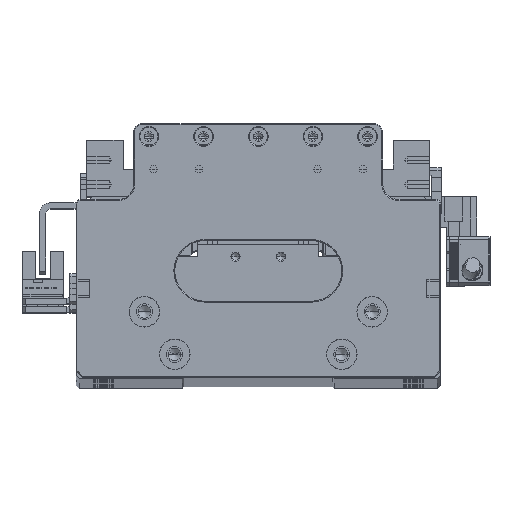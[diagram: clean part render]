
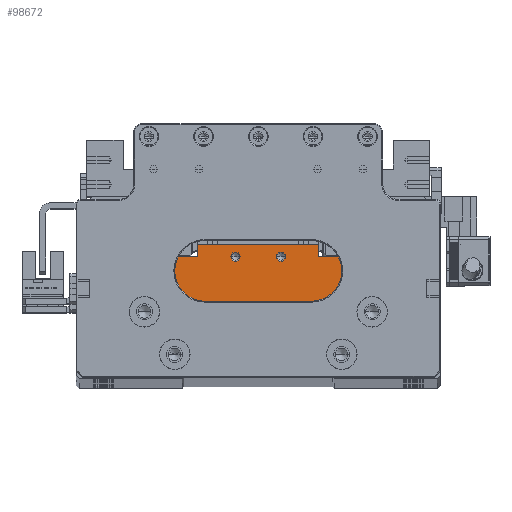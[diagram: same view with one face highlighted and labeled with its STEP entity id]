
A CAD part, top view. The second image highlights one B-rep face of the part: STEP entity #98672.
In plain terms, the highlighted planar face has unit normal (0, 0, 1).
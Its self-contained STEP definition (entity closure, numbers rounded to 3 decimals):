
#137 = CIRCLE ( 'NONE', #19736, 1.525 ) ;
#1802 = ORIENTED_EDGE ( 'NONE', *, *, #116679, .F. ) ;
#2144 = CARTESIAN_POINT ( 'NONE',  ( 29.9, 25.7, 83.854 ) ) ;
#3213 = CARTESIAN_POINT ( 'NONE',  ( -29.9, 18.2, 83.854 ) ) ;
#3521 = EDGE_LOOP ( 'NONE', ( #27339, #49898 ) ) ;
#4891 = VERTEX_POINT ( 'NONE', #2144 ) ;
#4907 = DIRECTION ( 'NONE',  ( 0., -1., 0. ) ) ;
#6068 = VERTEX_POINT ( 'NONE', #71250 ) ;
#7444 = VERTEX_POINT ( 'NONE', #24643 ) ;
#10605 = VECTOR ( 'NONE', #4907, 1000. ) ;
#13296 = VECTOR ( 'NONE', #39005, 1000. ) ;
#19329 = LINE ( 'NONE', #95930, #94424 ) ;
#19736 = AXIS2_PLACEMENT_3D ( 'NONE', #80781, #22090, #90648 ) ;
#19939 = ORIENTED_EDGE ( 'NONE', *, *, #48130, .F. ) ;
#22090 = DIRECTION ( 'NONE',  ( 0., 0., 1. ) ) ;
#22653 = DIRECTION ( 'NONE',  ( 1., 0., 0. ) ) ;
#23496 = CIRCLE ( 'NONE', #59770, 1.525 ) ;
#24643 = CARTESIAN_POINT ( 'NONE',  ( -20., 25.7, 83.854 ) ) ;
#25061 = VERTEX_POINT ( 'NONE', #27291 ) ;
#26225 = CARTESIAN_POINT ( 'NONE',  ( -7.5, 25.8, 83.854 ) ) ;
#27291 = CARTESIAN_POINT ( 'NONE',  ( 20., 25.7, 83.854 ) ) ;
#27339 = ORIENTED_EDGE ( 'NONE', *, *, #77988, .F. ) ;
#27427 = CIRCLE ( 'NONE', #104226, 1.525 ) ;
#28948 = CARTESIAN_POINT ( 'NONE',  ( -7.5, 25.8, 83.854 ) ) ;
#29570 = EDGE_CURVE ( 'NONE', #4891, #106467, #42796, .T. ) ;
#29706 = EDGE_CURVE ( 'NONE', #97869, #88458, #27427, .T. ) ;
#29922 = EDGE_LOOP ( 'NONE', ( #117406, #93422 ) ) ;
#33659 = DIRECTION ( 'NONE',  ( 0., 1., 0. ) ) ;
#33711 = PLANE ( 'NONE',  #125155 ) ;
#33817 = DIRECTION ( 'NONE',  ( 0., 0., 1. ) ) ;
#34061 = DIRECTION ( 'NONE',  ( 0., -1., 0. ) ) ;
#36074 = DIRECTION ( 'NONE',  ( 1., 0., 0. ) ) ;
#36429 = ORIENTED_EDGE ( 'NONE', *, *, #29570, .F. ) ;
#37330 = FACE_BOUND ( 'NONE', #29922, .T. ) ;
#38775 = DIRECTION ( 'NONE',  ( 1., 0., 0. ) ) ;
#39005 = DIRECTION ( 'NONE',  ( 1., 0., 0. ) ) ;
#39417 = LINE ( 'NONE', #97707, #13296 ) ;
#41117 = ORIENTED_EDGE ( 'NONE', *, *, #45506, .F. ) ;
#42796 = LINE ( 'NONE', #83230, #10605 ) ;
#43191 = EDGE_CURVE ( 'NONE', #65549, #106467, #39417, .T. ) ;
#43545 = DIRECTION ( 'NONE',  ( -1., 0., 0. ) ) ;
#43923 = CARTESIAN_POINT ( 'NONE',  ( 20., 18.2, 83.854 ) ) ;
#44970 = CIRCLE ( 'NONE', #89918, 1.525 ) ;
#45506 = EDGE_CURVE ( 'NONE', #65549, #6068, #121905, .T. ) ;
#48130 = EDGE_CURVE ( 'NONE', #56664, #65580, #62462, .T. ) ;
#48506 = DIRECTION ( 'NONE',  ( 1., 0., 0. ) ) ;
#49379 = CARTESIAN_POINT ( 'NONE',  ( -9.025, 25.8, 83.854 ) ) ;
#49898 = ORIENTED_EDGE ( 'NONE', *, *, #81569, .F. ) ;
#51437 = LINE ( 'NONE', #71479, #126532 ) ;
#56305 = VECTOR ( 'NONE', #48506, 1000. ) ;
#56664 = VERTEX_POINT ( 'NONE', #118696 ) ;
#59770 = AXIS2_PLACEMENT_3D ( 'NONE', #92485, #33817, #102345 ) ;
#62462 = LINE ( 'NONE', #117029, #56305 ) ;
#62873 = CARTESIAN_POINT ( 'NONE',  ( -7.5, 18.2, 83.854 ) ) ;
#64263 = EDGE_CURVE ( 'NONE', #25061, #4891, #19329, .T. ) ;
#64524 = EDGE_LOOP ( 'NONE', ( #1802, #41117, #120248, #36429, #120595, #123387, #19939, #68574 ) ) ;
#64656 = VECTOR ( 'NONE', #33659, 1000. ) ;
#65549 = VERTEX_POINT ( 'NONE', #71602 ) ;
#65580 = VERTEX_POINT ( 'NONE', #117583 ) ;
#68574 = ORIENTED_EDGE ( 'NONE', *, *, #89217, .F. ) ;
#69812 = VECTOR ( 'NONE', #71698, 1000. ) ;
#70795 = LINE ( 'NONE', #102172, #64656 ) ;
#71250 = CARTESIAN_POINT ( 'NONE',  ( -29.9, 25.7, 83.854 ) ) ;
#71479 = CARTESIAN_POINT ( 'NONE',  ( -7.5, 25.7, 83.854 ) ) ;
#71602 = CARTESIAN_POINT ( 'NONE',  ( -29.9, 6.5, 83.854 ) ) ;
#71698 = DIRECTION ( 'NONE',  ( 0., 1., 0. ) ) ;
#77988 = EDGE_CURVE ( 'NONE', #111848, #94336, #23496, .T. ) ;
#80781 = CARTESIAN_POINT ( 'NONE',  ( 7.5, 25.8, 83.854 ) ) ;
#81569 = EDGE_CURVE ( 'NONE', #94336, #111848, #137, .T. ) ;
#83230 = CARTESIAN_POINT ( 'NONE',  ( 29.9, 18.2, 83.854 ) ) ;
#83760 = CARTESIAN_POINT ( 'NONE',  ( 29.9, 6.5, 83.854 ) ) ;
#84565 = VECTOR ( 'NONE', #34061, 1000. ) ;
#86077 = DIRECTION ( 'NONE',  ( 1., 0., 0. ) ) ;
#88458 = VERTEX_POINT ( 'NONE', #100639 ) ;
#89217 = EDGE_CURVE ( 'NONE', #7444, #56664, #70795, .T. ) ;
#89257 = EDGE_CURVE ( 'NONE', #65580, #25061, #110602, .T. ) ;
#89918 = AXIS2_PLACEMENT_3D ( 'NONE', #28948, #97487, #38775 ) ;
#90222 = CARTESIAN_POINT ( 'NONE',  ( 9.025, 25.8, 83.854 ) ) ;
#90648 = DIRECTION ( 'NONE',  ( 1., 0., 0. ) ) ;
#92485 = CARTESIAN_POINT ( 'NONE',  ( 7.5, 25.8, 83.854 ) ) ;
#93422 = ORIENTED_EDGE ( 'NONE', *, *, #29706, .F. ) ;
#94336 = VERTEX_POINT ( 'NONE', #117574 ) ;
#94424 = VECTOR ( 'NONE', #86077, 1000. ) ;
#94775 = DIRECTION ( 'NONE',  ( 0., 0., 1. ) ) ;
#95930 = CARTESIAN_POINT ( 'NONE',  ( -7.5, 25.7, 83.854 ) ) ;
#97487 = DIRECTION ( 'NONE',  ( 0., 0., 1. ) ) ;
#97707 = CARTESIAN_POINT ( 'NONE',  ( -7.5, 6.5, 83.854 ) ) ;
#97869 = VERTEX_POINT ( 'NONE', #49379 ) ;
#98672 = ADVANCED_FACE ( 'NONE', ( #115509, #112432, #37330 ), #33711, .F. ) ;
#98915 = EDGE_CURVE ( 'NONE', #88458, #97869, #44970, .T. ) ;
#100639 = CARTESIAN_POINT ( 'NONE',  ( -5.975, 25.8, 83.854 ) ) ;
#102172 = CARTESIAN_POINT ( 'NONE',  ( -20., 18.2, 83.854 ) ) ;
#102233 = DIRECTION ( 'NONE',  ( 0., 0., -1. ) ) ;
#102345 = DIRECTION ( 'NONE',  ( 1., 0., 0. ) ) ;
#104226 = AXIS2_PLACEMENT_3D ( 'NONE', #26225, #94775, #36074 ) ;
#106467 = VERTEX_POINT ( 'NONE', #83760 ) ;
#110602 = LINE ( 'NONE', #43923, #84565 ) ;
#111848 = VERTEX_POINT ( 'NONE', #90222 ) ;
#112432 = FACE_BOUND ( 'NONE', #3521, .T. ) ;
#115509 = FACE_OUTER_BOUND ( 'NONE', #64524, .T. ) ;
#116679 = EDGE_CURVE ( 'NONE', #6068, #7444, #51437, .T. ) ;
#117029 = CARTESIAN_POINT ( 'NONE',  ( -7.5, 29.7, 83.854 ) ) ;
#117406 = ORIENTED_EDGE ( 'NONE', *, *, #98915, .F. ) ;
#117574 = CARTESIAN_POINT ( 'NONE',  ( 5.975, 25.8, 83.854 ) ) ;
#117583 = CARTESIAN_POINT ( 'NONE',  ( 20., 29.7, 83.854 ) ) ;
#118696 = CARTESIAN_POINT ( 'NONE',  ( -20., 29.7, 83.854 ) ) ;
#120248 = ORIENTED_EDGE ( 'NONE', *, *, #43191, .T. ) ;
#120595 = ORIENTED_EDGE ( 'NONE', *, *, #64263, .F. ) ;
#121905 = LINE ( 'NONE', #3213, #69812 ) ;
#123387 = ORIENTED_EDGE ( 'NONE', *, *, #89257, .F. ) ;
#125155 = AXIS2_PLACEMENT_3D ( 'NONE', #62873, #102233, #43545 ) ;
#126532 = VECTOR ( 'NONE', #22653, 1000. ) ;
